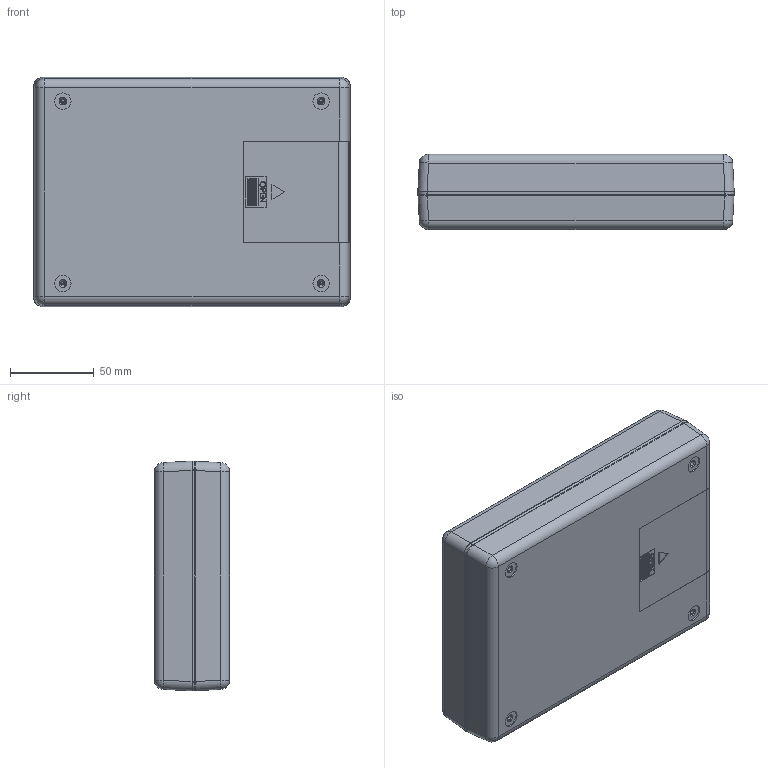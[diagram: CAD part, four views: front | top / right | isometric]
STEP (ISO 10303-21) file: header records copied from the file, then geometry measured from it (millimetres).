
FILE_DESCRIPTION (( 'STEP AP214' ), '1' );
FILE_NAME ('UCCL-137.STEP', '2020-05-22T17:46:03', ( 'Rudy' ), ( '' ), 'SwSTEP 2.0', 'SolidWorks 2014', '' );
FILE_SCHEMA (( 'AUTOMOTIVE_DESIGN' ));
Length unit declared in the file: inch
Products named in the file (4): door-4AA; UCCL-Shallow-top Recessed; UCCL-4-AA-bot; UCCL-137
Assembly tree (3 placements, depth 2):
  UCCL-137
    UCCL-4-AA-bot
    UCCL-Shallow-top Recessed
    door-4AA
Bounding box: 189.36 x 44.96 x 137.54 mm (x, y, z)
Volume: 209084.5 mm3; surface area: 185971.2 mm2
Topology: 3 solids, 3 shells, 1199 faces, 3188 edges, 2023 vertices
Faces by surface type: plane 571, cylinder 404, torus 102, cone 88, bspline 26, sphere 8
Entity records: 38857 total; most frequent: CARTESIAN_POINT 8518, DIRECTION 6369, ORIENTED_EDGE 6344, EDGE_CURVE 3172, AXIS2_PLACEMENT_3D 2186, VERTEX_POINT 2023, VECTOR 1997, LINE 1997
